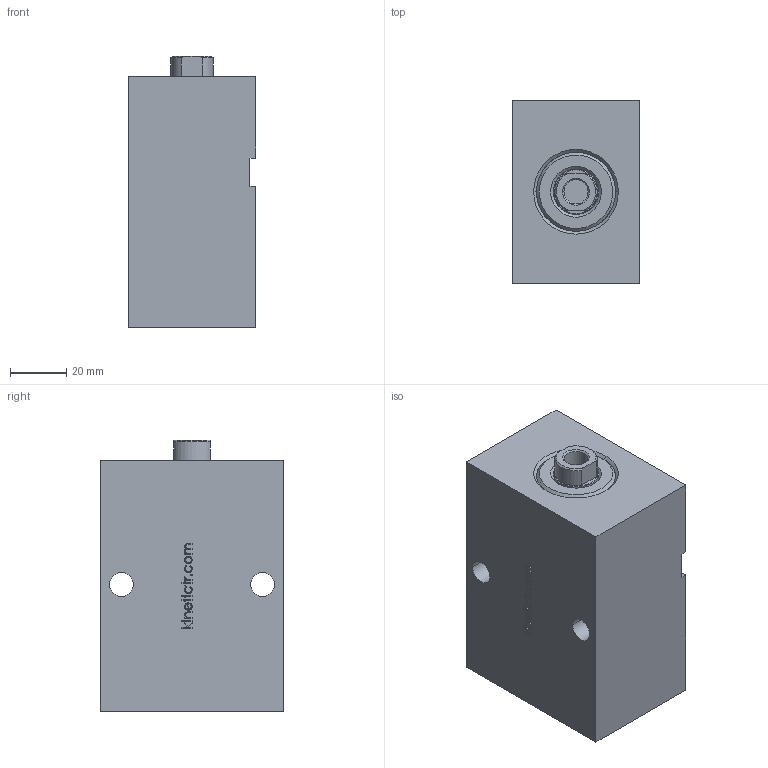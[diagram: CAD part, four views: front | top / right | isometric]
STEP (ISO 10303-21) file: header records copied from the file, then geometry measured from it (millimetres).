
FILE_DESCRIPTION (( 'STEP AP214' ), '1' );
FILE_NAME ('KBZ_11_25_16_45.STEP', '2019-09-11T19:14:18', ( '' ), ( '' ), 'SwSTEP 2.0', 'SolidWorks 2018', '' );
FILE_SCHEMA (( 'AUTOMOTIVE_DESIGN' ));
Length unit declared in the file: millimetre
Products named in the file (4): KAPAK; GOVDE; KBZ_11_25_16_45; MIL
Assembly tree (3 placements, depth 2):
  KBZ_11_25_16_45
    GOVDE
    KAPAK
    MIL
Bounding box: 45 x 65 x 96 mm (x, y, z)
Volume: 254819.3 mm3; surface area: 32544.3 mm2
Topology: 3 solids, 3 shells, 232 faces, 586 edges, 386 vertices
Faces by surface type: plane 117, bspline 69, cylinder 29, cone 17
Entity records: 10254 total; most frequent: CARTESIAN_POINT 4915, ORIENTED_EDGE 1172, DIRECTION 858, EDGE_CURVE 586, VERTEX_POINT 386, VECTOR 368, LINE 368, EDGE_LOOP 264
